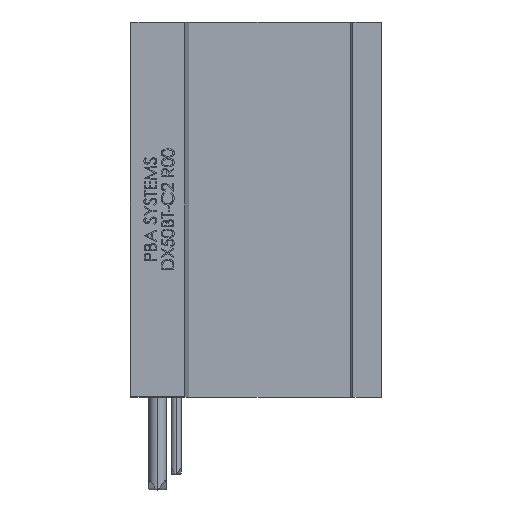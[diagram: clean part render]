
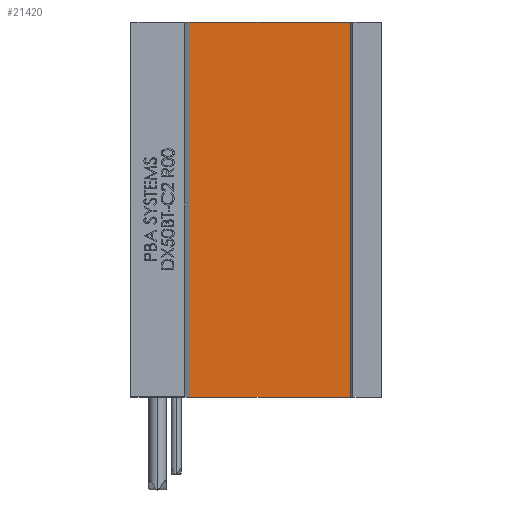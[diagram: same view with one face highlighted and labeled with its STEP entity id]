
A CAD part, left-side view. The second image highlights one B-rep face of the part: STEP entity #21420.
In plain terms, the highlighted planar face has unit normal (-1, 0, 0) as drawn and (1, 0, 0) by its records, which use the part's own axes.
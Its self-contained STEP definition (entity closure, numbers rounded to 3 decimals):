
#727 = CARTESIAN_POINT ( 'NONE',  ( 3.6, -12.7, -121. ) ) ;
#3256 = VECTOR ( 'NONE', #29610, 1000. ) ;
#3741 = DIRECTION ( 'NONE',  ( 0., 1., 0. ) ) ;
#5264 = AXIS2_PLACEMENT_3D ( 'NONE', #11874, #20576, #3741 ) ;
#5801 = VECTOR ( 'NONE', #25361, 1000. ) ;
#6660 = LINE ( 'NONE', #30972, #5801 ) ;
#6762 = CARTESIAN_POINT ( 'NONE',  ( 3.6, -12.7, -121. ) ) ;
#7218 = ORIENTED_EDGE ( 'NONE', *, *, #33627, .F. ) ;
#7655 = CARTESIAN_POINT ( 'NONE',  ( 3.6, -12.7, -121. ) ) ;
#11528 = VERTEX_POINT ( 'NONE', #30619 ) ;
#11874 = CARTESIAN_POINT ( 'NONE',  ( 3.6, -12.7, -121. ) ) ;
#12149 = LINE ( 'NONE', #727, #34464 ) ;
#12221 = LINE ( 'NONE', #6762, #13107 ) ;
#12472 = LINE ( 'NONE', #21736, #3256 ) ;
#13107 = VECTOR ( 'NONE', #29188, 1000. ) ;
#13633 = EDGE_CURVE ( 'NONE', #18058, #11528, #12221, .T. ) ;
#15213 = ORIENTED_EDGE ( 'NONE', *, *, #21060, .T. ) ;
#17860 = ORIENTED_EDGE ( 'NONE', *, *, #13633, .T. ) ;
#18058 = VERTEX_POINT ( 'NONE', #7655 ) ;
#20391 = DIRECTION ( 'NONE',  ( 0., 1., 0. ) ) ;
#20576 = DIRECTION ( 'NONE',  ( 1., 0., 0. ) ) ;
#20586 = VERTEX_POINT ( 'NONE', #20666 ) ;
#20666 = CARTESIAN_POINT ( 'NONE',  ( 3.6, -64.9, 0. ) ) ;
#20929 = FACE_OUTER_BOUND ( 'NONE', #31132, .T. ) ;
#21060 = EDGE_CURVE ( 'NONE', #24274, #18058, #12149, .T. ) ;
#21420 = ADVANCED_FACE ( 'NONE', ( #20929 ), #25842, .T. ) ;
#21736 = CARTESIAN_POINT ( 'NONE',  ( 3.6, -12.7, 0. ) ) ;
#24274 = VERTEX_POINT ( 'NONE', #30855 ) ;
#25361 = DIRECTION ( 'NONE',  ( 0., 0., 1. ) ) ;
#25445 = ORIENTED_EDGE ( 'NONE', *, *, #28307, .F. ) ;
#25842 = PLANE ( 'NONE',  #5264 ) ;
#28307 = EDGE_CURVE ( 'NONE', #24274, #20586, #6660, .T. ) ;
#29188 = DIRECTION ( 'NONE',  ( 0., 0., 1. ) ) ;
#29610 = DIRECTION ( 'NONE',  ( 0., 1., 0. ) ) ;
#30619 = CARTESIAN_POINT ( 'NONE',  ( 3.6, -12.7, 0. ) ) ;
#30855 = CARTESIAN_POINT ( 'NONE',  ( 3.6, -64.9, -121. ) ) ;
#30972 = CARTESIAN_POINT ( 'NONE',  ( 3.6, -64.9, -121. ) ) ;
#31132 = EDGE_LOOP ( 'NONE', ( #7218, #25445, #15213, #17860 ) ) ;
#33627 = EDGE_CURVE ( 'NONE', #20586, #11528, #12472, .T. ) ;
#34464 = VECTOR ( 'NONE', #20391, 1000. ) ;
